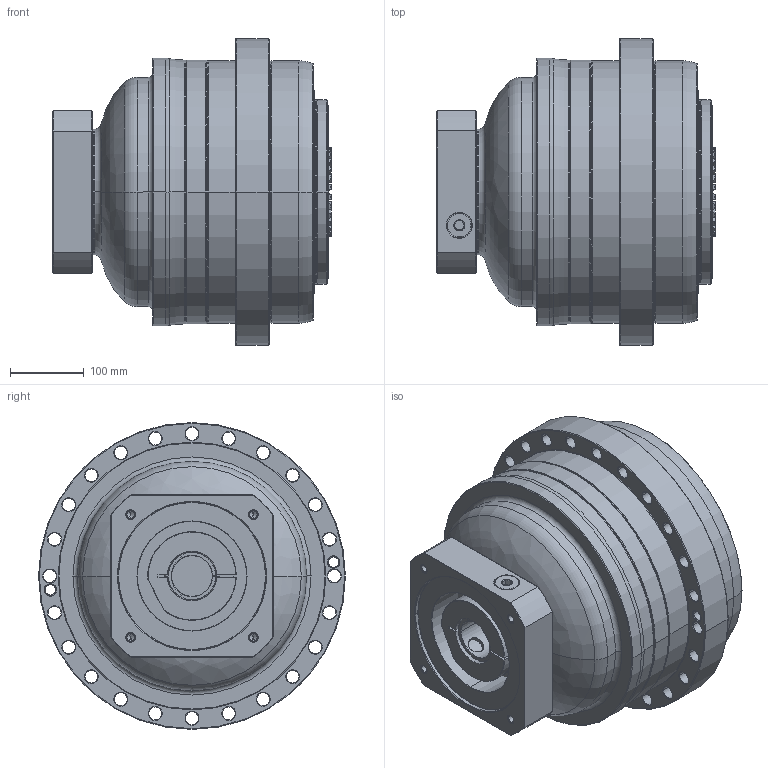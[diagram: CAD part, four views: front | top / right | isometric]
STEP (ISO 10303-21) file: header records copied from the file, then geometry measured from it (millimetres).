
FILE_DESCRIPTION((''),'2;1');
FILE_NAME('APC355_2ST_55-P0409C50201_ASM','2018-06-29T',('d01226'),(''),'PRO/ENGINEER BY PARAMETRIC TECHNOLOGY CORPORATION, 2008410','PRO/ENGINEER BY PARAMETRIC TECHNOLOGY CORPORATION, 2008410','');
FILE_SCHEMA(('CONFIG_CONTROL_DESIGN'));
Length unit declared in the file: millimetre
Products named in the file (9): P0276101003; P03571G0103; P1339110101; P0503C00016; P0962104001; P1222100001; P0409C50201; 21711426021; APC355_2ST_55-P0409C50201_ASM
Assembly tree (8 placements, depth 2):
  APC355_2ST_55-P0409C50201_ASM
    P0276101003
    P03571G0103
    P1339110101
    P0503C00016
    P0962104001
    P1222100001
    P0409C50201
    21711426021
Bounding box: 376.6 x 415 x 415 mm (x, y, z)
Volume: 33929873.9 mm3; surface area: 1382176 mm2
Topology: 9 solids, 22 shells, 870 faces, 2137 edges, 1305 vertices
Faces by surface type: cone 282, cylinder 254, plane 164, torus 156, bspline 14
Entity records: 32137 total; most frequent: CARTESIAN_POINT 11213, DIRECTION 4665, ORIENTED_EDGE 4172, EDGE_CURVE 2111, AXIS2_PLACEMENT_3D 2032, VERTEX_POINT 1305, CIRCLE 1147, EDGE_LOOP 982
